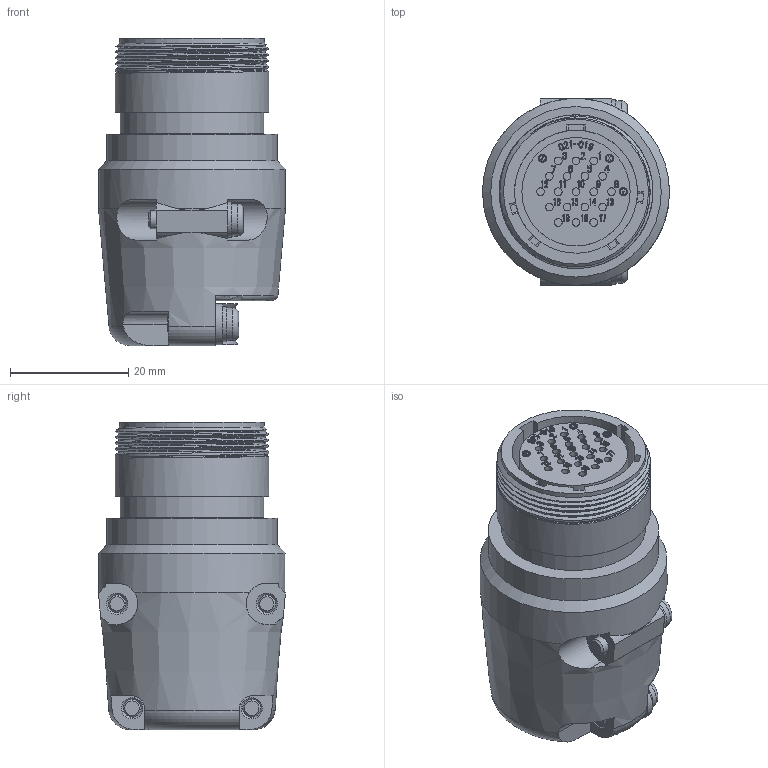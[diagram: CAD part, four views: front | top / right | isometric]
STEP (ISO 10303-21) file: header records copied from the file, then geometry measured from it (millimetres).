
FILE_DESCRIPTION (( 'STEP AP203' ), '1' );
FILE_NAME ('JMCR2119FM-D.STEP', '2021-07-19T12:04:05', ( '' ), ( '' ), 'SwSTEP 2.0', 'SolidWorks 2018', '' );
FILE_SCHEMA (( 'CONFIG_CONTROL_DESIGN' ));
Length unit declared in the file: millimetre
Products named in the file (1): JMCR2119FM-D
Bounding box: 31.6 x 31.57 x 51.9 mm (x, y, z)
Volume: 18592.2 mm3; surface area: 12681.5 mm2
Topology: 1 solids, 1 shells, 1792 faces, 4842 edges, 3194 vertices
Faces by surface type: plane 821, bspline 722, cylinder 195, cone 40, torus 14
Full cylindrical faces by diameter (mm): 1.1 x22, 1.2 x1, 1.3 x19, 1.4 x4, 1.55 x19, 3 x4, 5.5 x4, 15.2 x1, 18.1 x1, 18.3 x1, 20.1 x1, 20.8 x1, 22.7 x1, 22.8 x1, 24.3 x1, 24.5 x1, 25.96 x4, 26.2 x1, 28.8 x1, 31.6 x1
Entity records: 81385 total; most frequent: CARTESIAN_POINT 42162, ORIENTED_EDGE 9356, DIRECTION 5542, EDGE_CURVE 4678, VERTEX_POINT 3157, LINE 2614, VECTOR 2614, EDGE_LOOP 2055
